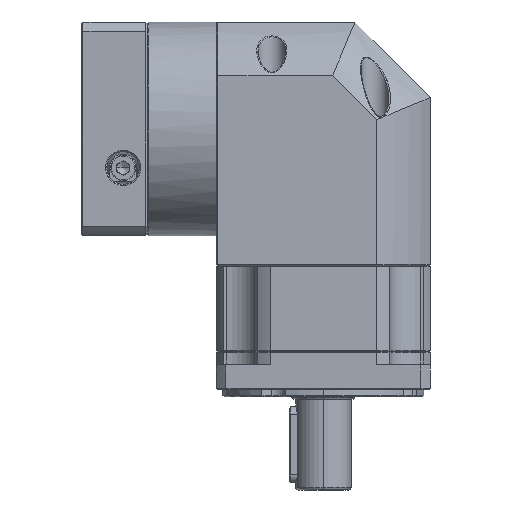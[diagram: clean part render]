
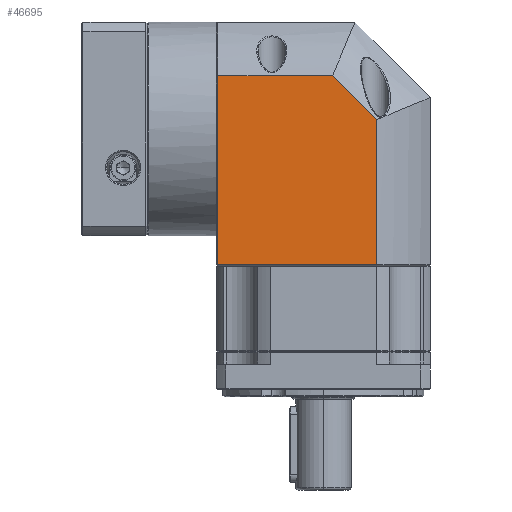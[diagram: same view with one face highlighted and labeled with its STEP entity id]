
A CAD part, left-side view. The second image highlights one B-rep face of the part: STEP entity #46695.
In plain terms, the highlighted planar face has unit normal (-1, 0, 0).
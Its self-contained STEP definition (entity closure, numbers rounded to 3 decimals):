
#951 = EDGE_CURVE ( 'NONE', #43920, #63865, #23406, .T. ) ;
#2273 = VECTOR ( 'NONE', #87612, 1000. ) ;
#9889 = DIRECTION ( 'NONE',  ( 0., 1., 0. ) ) ;
#10344 = CARTESIAN_POINT ( 'NONE',  ( -98.744, 52.479, 41.991 ) ) ;
#15568 = VERTEX_POINT ( 'NONE', #17039 ) ;
#17039 = CARTESIAN_POINT ( 'NONE',  ( -98.744, -11.234, 24.461 ) ) ;
#19674 = VECTOR ( 'NONE', #40343, 1000. ) ;
#22976 = CARTESIAN_POINT ( 'NONE',  ( -98.744, -11.234, -33.222 ) ) ;
#23406 = LINE ( 'NONE', #138565, #33511 ) ;
#28787 = CARTESIAN_POINT ( 'NONE',  ( -98.744, 52.479, -33.222 ) ) ;
#30855 = LINE ( 'NONE', #119598, #2273 ) ;
#33511 = VECTOR ( 'NONE', #84961, 1000. ) ;
#40343 = DIRECTION ( 'NONE',  ( 0., 0., -1. ) ) ;
#41518 = AXIS2_PLACEMENT_3D ( 'NONE', #106831, #52683, #9889 ) ;
#43920 = VERTEX_POINT ( 'NONE', #129546 ) ;
#44255 = EDGE_CURVE ( 'NONE', #43920, #47244, #127799, .T. ) ;
#46695 = ADVANCED_FACE ( 'NONE', ( #97081 ), #73816, .F. ) ;
#47244 = VERTEX_POINT ( 'NONE', #22976 ) ;
#51322 = DIRECTION ( 'NONE',  ( 0., -1., 0. ) ) ;
#52683 = DIRECTION ( 'NONE',  ( 1., 0., 0. ) ) ;
#54504 = CARTESIAN_POINT ( 'NONE',  ( -98.744, 51.979, 41.991 ) ) ;
#63865 = VERTEX_POINT ( 'NONE', #54504 ) ;
#72344 = CARTESIAN_POINT ( 'NONE',  ( -98.744, -11.234, 66.778 ) ) ;
#73816 = PLANE ( 'NONE',  #41518 ) ;
#76164 = ORIENTED_EDGE ( 'NONE', *, *, #99034, .F. ) ;
#76749 = ORIENTED_EDGE ( 'NONE', *, *, #111598, .F. ) ;
#81862 = CARTESIAN_POINT ( 'NONE',  ( -98.744, 6.297, 41.991 ) ) ;
#84961 = DIRECTION ( 'NONE',  ( 0., 0., 1. ) ) ;
#85591 = DIRECTION ( 'NONE',  ( 0., -1., 0. ) ) ;
#85704 = VECTOR ( 'NONE', #51322, 1000. ) ;
#87612 = DIRECTION ( 'NONE',  ( 0., -0.707, -0.707 ) ) ;
#87902 = ORIENTED_EDGE ( 'NONE', *, *, #951, .F. ) ;
#89191 = LINE ( 'NONE', #10344, #90943 ) ;
#90943 = VECTOR ( 'NONE', #85591, 1000. ) ;
#91145 = ORIENTED_EDGE ( 'NONE', *, *, #44255, .T. ) ;
#97081 = FACE_OUTER_BOUND ( 'NONE', #124639, .T. ) ;
#99034 = EDGE_CURVE ( 'NONE', #15568, #47244, #125778, .T. ) ;
#106831 = CARTESIAN_POINT ( 'NONE',  ( -98.744, 52.479, 63.278 ) ) ;
#107263 = EDGE_CURVE ( 'NONE', #111260, #15568, #30855, .T. ) ;
#111260 = VERTEX_POINT ( 'NONE', #81862 ) ;
#111598 = EDGE_CURVE ( 'NONE', #63865, #111260, #89191, .T. ) ;
#119598 = CARTESIAN_POINT ( 'NONE',  ( -98.744, 6.297, 41.991 ) ) ;
#124639 = EDGE_LOOP ( 'NONE', ( #91145, #76164, #131992, #76749, #87902 ) ) ;
#125778 = LINE ( 'NONE', #72344, #19674 ) ;
#127799 = LINE ( 'NONE', #28787, #85704 ) ;
#129546 = CARTESIAN_POINT ( 'NONE',  ( -98.744, 51.979, -33.222 ) ) ;
#131992 = ORIENTED_EDGE ( 'NONE', *, *, #107263, .F. ) ;
#138565 = CARTESIAN_POINT ( 'NONE',  ( -98.744, 51.979, 63.278 ) ) ;
